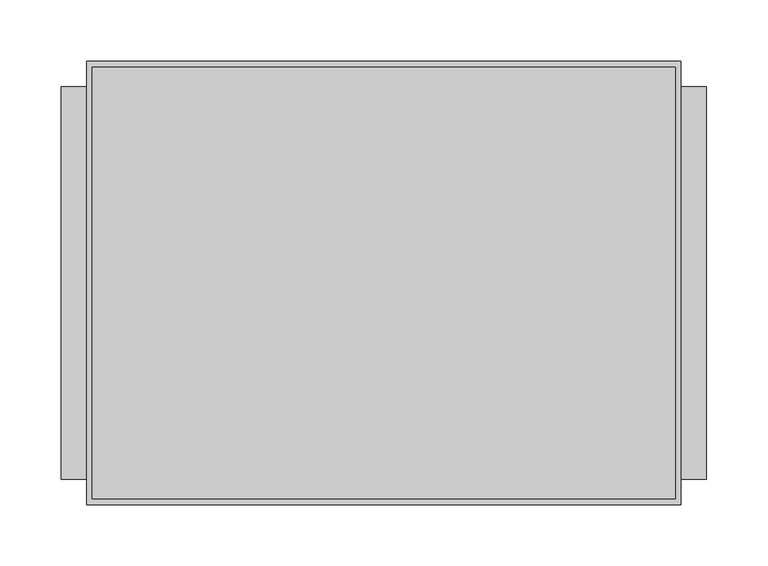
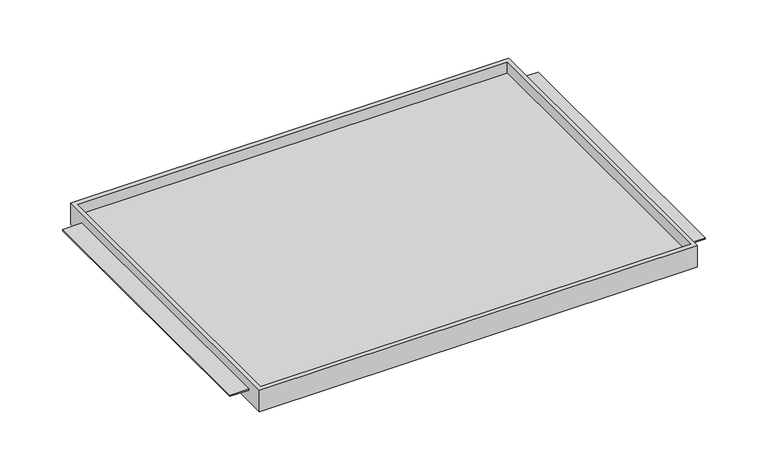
"""IFC4 building model written with IfcOpenShell, lengths in millimetres: furniture geometry."""

from ifc_helpers import new_model, si_unit, origin, place, context, project, spatial, faceted_brep, source, transform, mapped, element, save


def furniture_bfc73138(model_context):
    return source(origin(), model_context, "Body", "Brep", [
        faceted_brep([(-242.7689646, -180.975, 1581.2389), (242.7689646, -180.975, 1581.2389), (242.7689646, -180.975, 1606.6389), (-242.7689646, -180.975, 1606.6389), (-242.7689646, 180.975, 1581.2389), (-242.7689646, 180.975, 1606.6389), (242.7689646, 180.975, 1606.6389), (242.7689646, 180.975, 1581.2389), (242.7689646, -160.3374879, 1595.5391), (242.7689646, 160.3374879, 1595.5391), (242.7689646, 160.3374879, 1593.9389), (242.7689646, -160.3374879, 1593.9389), (238.125, -176.2125, 1606.6389), (-238.125, -176.2125, 1606.6389), (-238.125, 175.91278, 1606.6389), (238.125, 175.91278, 1606.6389), (-242.7689646, 160.3374879, 1595.5391), (-242.7689646, -160.3374879, 1595.5391), (-242.7689646, -160.3374879, 1593.9389), (-242.7689646, 160.3374879, 1593.9389), (-238.125, -176.2125, 1593.9389), (238.125, -176.2125, 1593.9389), (238.125, 175.91278, 1593.9389), (-238.125, 175.91278, 1593.9389), (-263.525, 160.3374879, 1595.5391), (-263.525, -160.3374879, 1595.5391), (263.525, -160.3374879, 1595.5391), (263.525, 160.3374879, 1595.5391), (-263.525, -160.3374879, 1593.9389), (-263.525, 160.3374879, 1593.9389), (263.525, -160.3374879, 1593.9389), (263.525, 160.3374879, 1593.9389)], [[[0, 1, 2, 3]], [[4, 5, 6, 7]], [[1, 0, 4, 7]], [[2, 1, 7, 6], [8, 9, 10, 11]], [[3, 2, 6, 5], [12, 13, 14, 15]], [[0, 3, 5, 4], [16, 17, 18, 19]], [[20, 21, 22, 23]], [[21, 20, 13, 12]], [[22, 21, 12, 15]], [[23, 22, 15, 14]], [[20, 23, 14, 13]], [[16, 24, 25, 17]], [[26, 27, 9, 8]], [[18, 28, 29, 19]], [[30, 11, 10, 31]], [[24, 16, 19, 29]], [[25, 24, 29, 28]], [[17, 25, 28, 18]], [[27, 26, 30, 31]], [[9, 27, 31, 10]], [[26, 8, 11, 30]]]),
    ])


if __name__ == "__main__":
    model = new_model("IFC4")
    model_context = context("Model", 3, world=origin())
    ifc_project = project(units=[si_unit("LENGTHUNIT", "METRE", prefix="MILLI")], contexts=[model_context])
    site = spatial("IfcSite", under=ifc_project)
    building = spatial("IfcBuilding", under=site)
    placement = place(None, origin())
    furniture_shape = furniture_bfc73138(model_context)
    element("IfcFurniture", 1, ObjectType="HermanMiller_CoStruc_CO203_CTrayShelf : 14\"D x 20\"W", at=placement, inside=building, context=model_context, shape_type="MappedRepresentation", body=[
        mapped(furniture_shape, transform((0.0, 0.0, 0.0), x_axis=(1.0, 0.0, 0.0), y_axis=(0.0, 1.0, 0.0), z_axis=(0.0, 0.0, 1.0))),
    ])
    save(model, "model.ifc")
